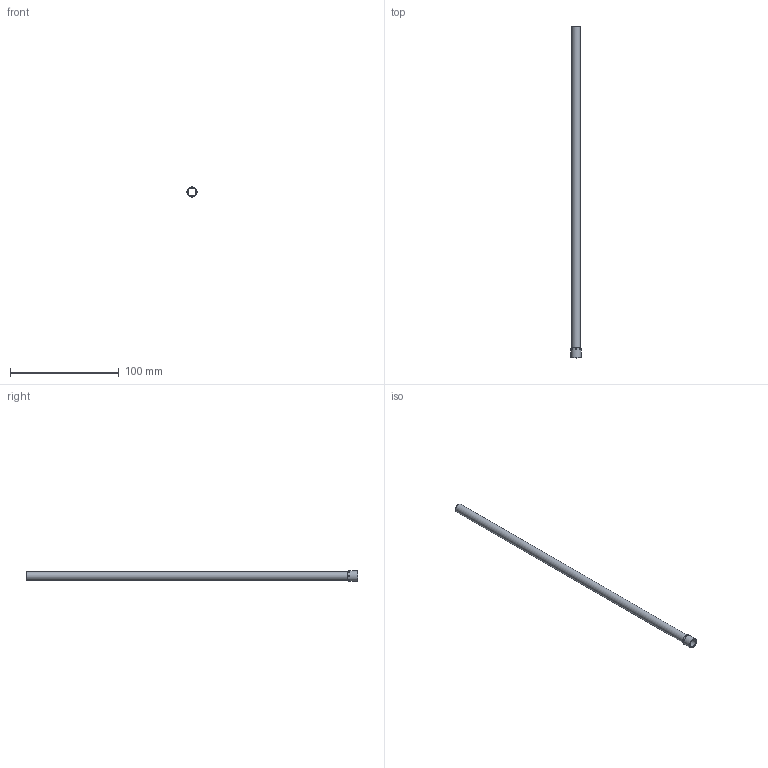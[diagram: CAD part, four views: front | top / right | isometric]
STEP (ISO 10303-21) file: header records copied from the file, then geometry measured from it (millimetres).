
FILE_DESCRIPTION(/* description */ (''),/* implementation_level */ '2;1');
FILE_NAME(/* name */ 'C:/Users/drich/Desktop/HF312T-12 v1.step',/* time_stamp */ '2019-12-30T13:26:49-06:00',/* author */ (''),/* organization */ (''),/* preprocessor_version */ 'ST-DEVELOPER v18',/* originating_system */ 'Autodesk Translation Framework v8.12.0.6',/* authorisation */ '');
FILE_SCHEMA (('AUTOMOTIVE_DESIGN { 1 0 10303 214 3 1 1 }'));
Length unit declared in the file: inch
Products named in the file (1): HF312T-12
Bounding box: 9.58 x 304.8 x 9.58 mm (x, y, z)
Volume: 2410.3 mm3; surface area: 14683.9 mm2
Topology: 1 solids, 1 shells, 12 faces, 30 edges, 22 vertices
Faces by surface type: plane 4, cylinder 4, torus 3, cone 1
Full cylindrical faces by diameter (mm): 7.315 x1, 7.925 x1, 9.406 x1, 9.576 x1
Entity records: 426 total; most frequent: DIRECTION 81, CARTESIAN_POINT 65, ORIENTED_EDGE 60, AXIS2_PLACEMENT_3D 38, EDGE_CURVE 30, CIRCLE 25, VERTEX_POINT 22, EDGE_LOOP 16
